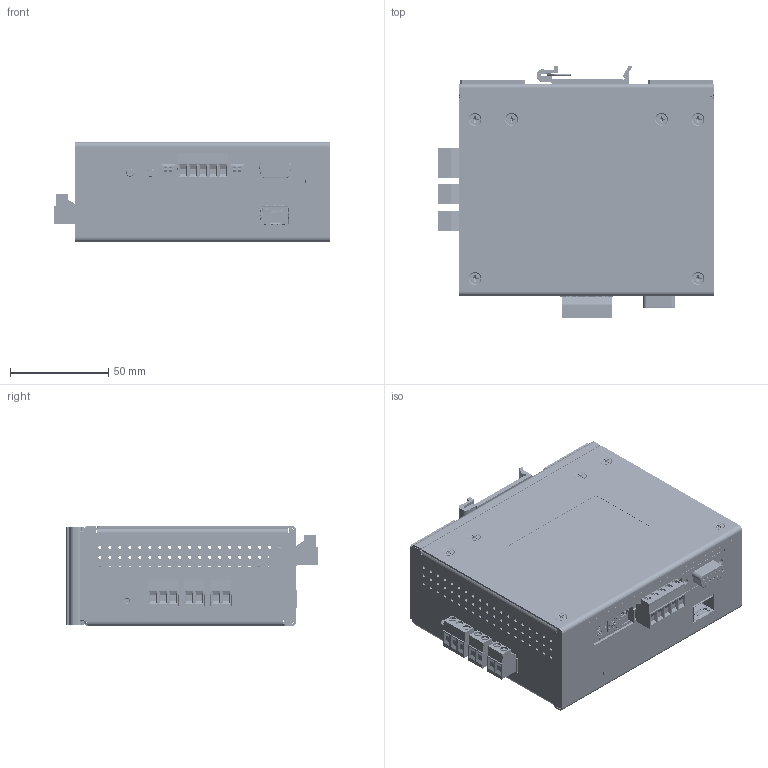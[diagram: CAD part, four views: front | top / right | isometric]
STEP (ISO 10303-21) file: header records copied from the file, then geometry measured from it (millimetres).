
FILE_DESCRIPTION(/* description */ ('STEP AP242','CAx-IF Rec.Pracs.---Representation and Presentation of Product Manufacturing Information (PMI)---4.0---2014-10-13','CAx-IF Rec.Pracs.---3D Tessellated Geometry---0.4---2014-09-14','2;1'),/* implementation_level */ '2;1');
FILE_NAME(/* name */ '67115405d0142d086a2e40a3',/* time_stamp */ '2024-10-17T18:14:37Z',/* author */ (''),/* organization */ (''),/* preprocessor_version */ 'ST-DEVELOPER v20',/* originating_system */ ' ',/* authorisation */ ' ');
FILE_SCHEMA (('AP242_MANAGED_MODEL_BASED_3D_ENGINEERING_MIM_LF { 1 0 10303 442 1 1 4 }'));
Products named in the file (67): AD-130 - Rev A - UIO - Daughter Board - Fiber Converter RS-232485422; 91698A300_Black-Oxide 18-8 Stainless Steel Phillips Flat Head Screws; PCB-020 - Rev  C <1>; 95947A054_Aluminum Female Threaded Hex Standoff; 98952A007_Aluminum Male-Female Threaded Hex Standoff; PH Pan head screw M3x0.50 x 6; PCB-027  UIO  Mother Board <1>; Part 1; User Library-U77A1118X00X; CUI_DEVICES_TBP01R1-508-02GR; 10135584-644X0XLF; C-796634-3; CUI_DEVICES_TBP01R1-508-03GR; P4-64P-SHIELD; C-796634-2; PCB-014 - Rev C - UIO - Daughter Board - RS-232-485-422 <1>; CUI_DEVICES_DS02-254-1L-02BE; 10135583-644X0XXX_R4-64PIN; _S-2011A_body; C-796638-5; R4-64P-SHIELD; C-796634-5; _Without knob-Dial; 182-009-213; PCB Board; AD-119 - Rev B <1>; H-168 - Front Housing <1>; PEM CLS-M3-1  ; AD-XXX - UIO Back Housing, Components <1>; P-143; B-117 - Rev A - DIN Rail Clip <1>; Spring; DIN; H-163 <1>; H-163 - Rev G <1>; SP-M3-1_SP-M3-1_8; SP-M3-1_SP-M3-1_1; SP-M3-1_SP-M3-1_3; 94674A485_Flush-Mount Press-Fit Nut for Sheet Metal; SP-M3-1_SP-M3-1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
Assembly tree (128 placements, depth 6):
  AD-130 - Rev A - UIO - Daughter Board - Fiber Converter RS-232485422
    91698A300_Black-Oxide 18-8 Stainless Steel Phillips Flat Head Screws  x4
    PCB-020 - Rev  C <1>
      95947A054_Aluminum Female Threaded Hex Standoff  x7
      98952A007_Aluminum Male-Female Threaded Hex Standoff  x7
      PH Pan head screw M3x0.50 x 6  x7
      PCB-027  UIO  Mother Board <1>
        Part 1
        Part 1  x4
        User Library-U77A1118X00X
        User Library-U77A1118X00X
        User Library-U77A1118X00X
        User Library-U77A1118X00X
        User Library-U77A1118X00X
        User Library-U77A1118X00X
        User Library-U77A1118X00X
        Part 1  x2
        CUI_DEVICES_TBP01R1-508-02GR  x2
        10135584-644X0XLF  x2
        C-796634-3
        CUI_DEVICES_TBP01R1-508-03GR
        P4-64P-SHIELD  x2
        C-796634-2  x2
      PCB-014 - Rev C - UIO - Daughter Board - RS-232-485-422 <1>
        CUI_DEVICES_DS02-254-1L-02BE  x2
        CUI_DEVICES_DS02-254-1L-02BE  x2
        10135583-644X0XXX_R4-64PIN  x2
        _S-2011A_body  x2
        Part 1  x2
        Part 1  x4
        CUI_DEVICES_DS02-254-1L-02BE  x2
        CUI_DEVICES_DS02-254-1L-02BE  x2
        C-796638-5
        CUI_DEVICES_DS02-254-1L-02BE  x2
        CUI_DEVICES_DS02-254-1L-02BE  x2
        CUI_DEVICES_DS02-254-1L-02BE  x2
        R4-64P-SHIELD  x2
        C-796634-5
        _Without knob-Dial  x2
        182-009-213
        PCB Board
    AD-119 - Rev B <1>
      H-168 - Front Housing <1>
        Part 1
        PEM CLS-M3-1    x2
      AD-XXX - UIO Back Housing, Components <1>
        91698A300_Black-Oxide 18-8 Stainless Steel Phillips Flat Head Screws  x15
        P-143  x2
        B-117 - Rev A - DIN Rail Clip <1>
          Spring
          DIN
        H-163 <1>
          H-163 - Rev G <1>
            SP-M3-1_SP-M3-1_8
            SP-M3-1_SP-M3-1_1
            SP-M3-1_SP-M3-1_3
            94674A485_Flush-Mount Press-Fit Nut for Sheet Metal
            SP-M3-1_SP-M3-1_8
            SP-M3-1_SP-M3-1
            SP-M3-1_SP-M3-1
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Bounding box: 139.83 x 127.69 x 50.8 mm (x, y, z)
Volume: 139652.2 mm3; surface area: 232640.2 mm2
Topology: 112 solids, 146 shells, 13781 faces, 39281 edges, 25726 vertices
Faces by surface type: plane 10053, cylinder 2720, cone 594, bspline 292, torus 99, sphere 23
Full cylindrical faces by diameter (mm): 0.7 x4, 1.1 x4, 1.143 x9, 1.2 x4, 1.27 x6, 1.587 x190, 2 x14, 2.261 x2, 2.345 x7, 2.459 x2, 2.5 x20, 3 x96, 3.048 x4, 3.175 x8, 3.2 x4, 3.4 x3, 3.772 x13, 4 x19, 4.039 x1, 4.093 x1, 4.2 x2, 4.22 x28, 5.6 x7, 6.111 x13, 6.3 x26, 6.35 x2, 7.62 x16
Entity records: 282569 total; most frequent: CARTESIAN_POINT 61516, ORIENTED_EDGE 45927, DIRECTION 41766, EDGE_CURVE 23010, LINE 17842, VECTOR 17842, VERTEX_POINT 15184, AXIS2_PLACEMENT_3D 11962
